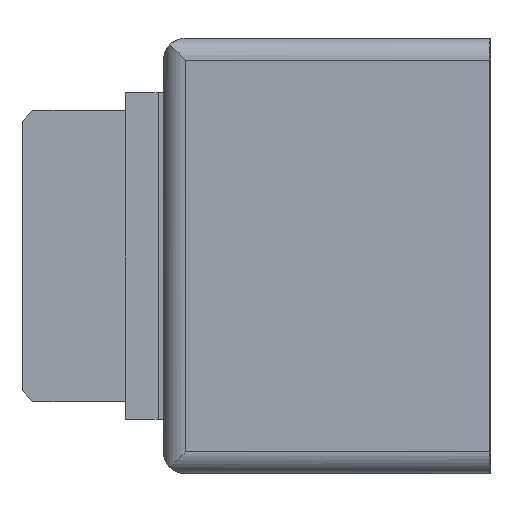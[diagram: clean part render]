
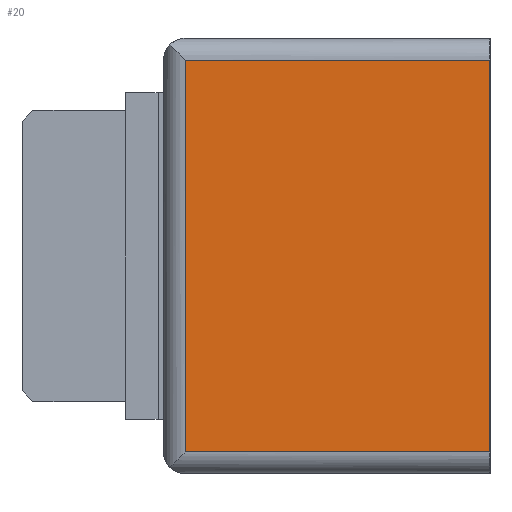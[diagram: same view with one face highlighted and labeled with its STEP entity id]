
A CAD part, left-side view. The second image highlights one B-rep face of the part: STEP entity #20.
In plain terms, the highlighted planar face has unit normal (-1, 0, 0).
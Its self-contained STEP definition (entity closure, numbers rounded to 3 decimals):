
#2 = ORIENTED_EDGE ( 'NONE', *, *, #4, .T. ) ;
#4 = EDGE_CURVE ( 'NONE', #18, #130, #1284, .T. ) ;
#18 = VERTEX_POINT ( 'NONE', #1146 ) ;
#19 = EDGE_LOOP ( 'NONE', ( #2, #131, #134, #137 ) ) ;
#20 = ADVANCED_FACE ( 'NONE', ( #1145 ), #1144, .F. ) ;
#130 = VERTEX_POINT ( 'NONE', #1347 ) ;
#131 = ORIENTED_EDGE ( 'NONE', *, *, #132, .T. ) ;
#132 = EDGE_CURVE ( 'NONE', #130, #133, #1429, .T. ) ;
#133 = VERTEX_POINT ( 'NONE', #1430 ) ;
#134 = ORIENTED_EDGE ( 'NONE', *, *, #135, .F. ) ;
#135 = EDGE_CURVE ( 'NONE', #136, #133, #1391, .T. ) ;
#136 = VERTEX_POINT ( 'NONE', #1387 ) ;
#137 = ORIENTED_EDGE ( 'NONE', *, *, #138, .T. ) ;
#138 = EDGE_CURVE ( 'NONE', #136, #18, #1397, .T. ) ;
#1140 = DIRECTION ( 'NONE',  ( 0., 0., -1. ) ) ;
#1141 = DIRECTION ( 'NONE',  ( 1., 0., 0. ) ) ;
#1142 = CARTESIAN_POINT ( 'NONE',  ( 0., 0., 80. ) ) ;
#1143 = AXIS2_PLACEMENT_3D ( 'NONE', #1142, #1141, #1140 ) ;
#1144 = PLANE ( 'NONE',  #1143 ) ;
#1145 = FACE_OUTER_BOUND ( 'NONE', #19, .T. ) ;
#1146 = CARTESIAN_POINT ( 'NONE',  ( 0., 56., 76. ) ) ;
#1281 = DIRECTION ( 'NONE',  ( 0., 0., -1. ) ) ;
#1282 = VECTOR ( 'NONE', #1281, 1000. ) ;
#1283 = CARTESIAN_POINT ( 'NONE',  ( 0., 56., 80. ) ) ;
#1284 = LINE ( 'NONE', #1283, #1282 ) ;
#1347 = CARTESIAN_POINT ( 'NONE',  ( 0., 56., 4. ) ) ;
#1387 = CARTESIAN_POINT ( 'NONE',  ( 0., 0., 76. ) ) ;
#1388 = DIRECTION ( 'NONE',  ( 0., 0., -1. ) ) ;
#1389 = VECTOR ( 'NONE', #1388, 1000. ) ;
#1390 = CARTESIAN_POINT ( 'NONE',  ( 0., 0., 80. ) ) ;
#1391 = LINE ( 'NONE', #1390, #1389 ) ;
#1394 = DIRECTION ( 'NONE',  ( 0., 1., 0. ) ) ;
#1395 = VECTOR ( 'NONE', #1394, 1000. ) ;
#1396 = CARTESIAN_POINT ( 'NONE',  ( 0., 0., 76. ) ) ;
#1397 = LINE ( 'NONE', #1396, #1395 ) ;
#1427 = DIRECTION ( 'NONE',  ( 0., -1., 0. ) ) ;
#1428 = CARTESIAN_POINT ( 'NONE',  ( 0., 0., 4. ) ) ;
#1429 = LINE ( 'NONE', #1428, #1431 ) ;
#1430 = CARTESIAN_POINT ( 'NONE',  ( 0., 0., 4. ) ) ;
#1431 = VECTOR ( 'NONE', #1427, 1000. ) ;
